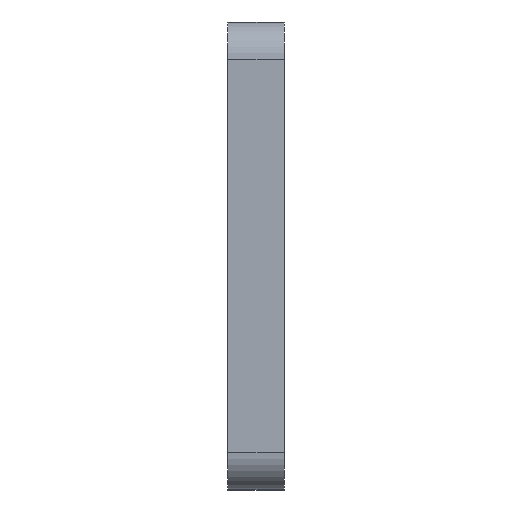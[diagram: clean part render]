
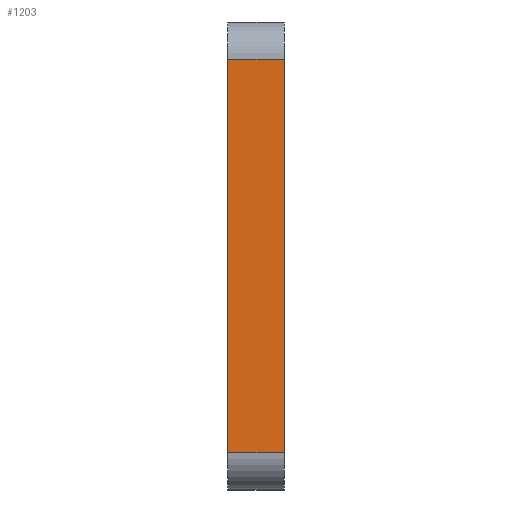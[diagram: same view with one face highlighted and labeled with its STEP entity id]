
A CAD part, left-side view. The second image highlights one B-rep face of the part: STEP entity #1203.
In plain terms, the highlighted planar face has unit normal (-1, 0, 0).
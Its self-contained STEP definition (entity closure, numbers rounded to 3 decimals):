
#1 = FACE_OUTER_BOUND ( 'NONE', #748, .T. ) ;
#52 = CARTESIAN_POINT ( 'NONE',  ( -74., 3., 10.5 ) ) ;
#115 = EDGE_CURVE ( 'NONE', #656, #206, #215, .T. ) ;
#138 = CARTESIAN_POINT ( 'NONE',  ( -74., 0., 10.5 ) ) ;
#206 = VERTEX_POINT ( 'NONE', #448 ) ;
#210 = EDGE_CURVE ( 'NONE', #638, #690, #1093, .T. ) ;
#215 = LINE ( 'NONE', #630, #1029 ) ;
#341 = ORIENTED_EDGE ( 'NONE', *, *, #788, .T. ) ;
#404 = ORIENTED_EDGE ( 'NONE', *, *, #210, .T. ) ;
#406 = CARTESIAN_POINT ( 'NONE',  ( -74., 3., 10.5 ) ) ;
#439 = VECTOR ( 'NONE', #440, 1000. ) ;
#440 = DIRECTION ( 'NONE',  ( 0., -1., 0. ) ) ;
#448 = CARTESIAN_POINT ( 'NONE',  ( -74., 0., -10.5 ) ) ;
#452 = VECTOR ( 'NONE', #884, 1000. ) ;
#475 = EDGE_CURVE ( 'NONE', #638, #656, #692, .T. ) ;
#535 = DIRECTION ( 'NONE',  ( 0., 0., 1. ) ) ;
#579 = LINE ( 'NONE', #902, #452 ) ;
#621 = ORIENTED_EDGE ( 'NONE', *, *, #115, .F. ) ;
#630 = CARTESIAN_POINT ( 'NONE',  ( -74., 0., 10.5 ) ) ;
#638 = VERTEX_POINT ( 'NONE', #683 ) ;
#647 = DIRECTION ( 'NONE',  ( 0., 0., -1. ) ) ;
#656 = VERTEX_POINT ( 'NONE', #138 ) ;
#666 = DIRECTION ( 'NONE',  ( -1., 0., 0. ) ) ;
#677 = ORIENTED_EDGE ( 'NONE', *, *, #475, .F. ) ;
#683 = CARTESIAN_POINT ( 'NONE',  ( -74., 3., 10.5 ) ) ;
#690 = VERTEX_POINT ( 'NONE', #934 ) ;
#692 = LINE ( 'NONE', #52, #439 ) ;
#713 = CARTESIAN_POINT ( 'NONE',  ( -74., 3., 10.5 ) ) ;
#726 = VECTOR ( 'NONE', #1154, 1000. ) ;
#748 = EDGE_LOOP ( 'NONE', ( #621, #677, #404, #341 ) ) ;
#788 = EDGE_CURVE ( 'NONE', #690, #206, #579, .T. ) ;
#884 = DIRECTION ( 'NONE',  ( 0., -1., 0. ) ) ;
#902 = CARTESIAN_POINT ( 'NONE',  ( -74., 3., -10.5 ) ) ;
#934 = CARTESIAN_POINT ( 'NONE',  ( -74., 3., -10.5 ) ) ;
#1029 = VECTOR ( 'NONE', #647, 1000. ) ;
#1093 = LINE ( 'NONE', #713, #726 ) ;
#1127 = PLANE ( 'NONE',  #1310 ) ;
#1154 = DIRECTION ( 'NONE',  ( 0., 0., -1. ) ) ;
#1203 = ADVANCED_FACE ( 'NONE', ( #1 ), #1127, .T. ) ;
#1310 = AXIS2_PLACEMENT_3D ( 'NONE', #406, #666, #535 ) ;
